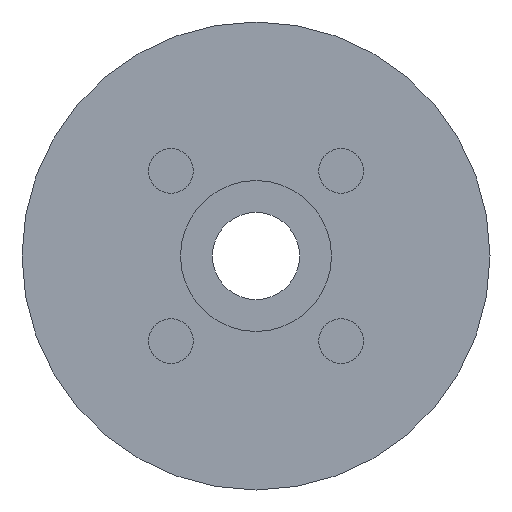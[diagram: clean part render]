
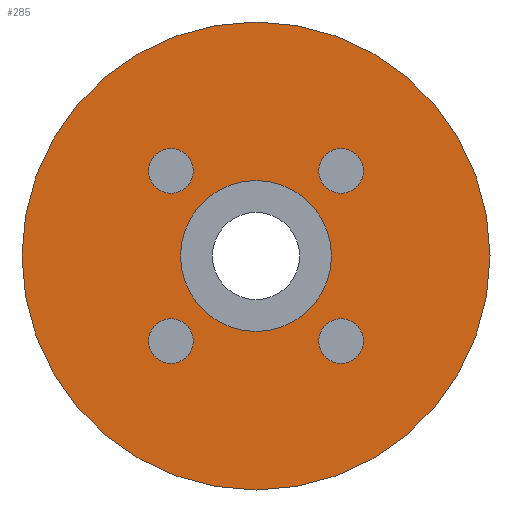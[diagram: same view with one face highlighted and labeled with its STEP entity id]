
A CAD part, front view. The second image highlights one B-rep face of the part: STEP entity #285.
In plain terms, the highlighted planar face has unit normal (0, -1, 0).
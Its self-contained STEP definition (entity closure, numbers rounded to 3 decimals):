
#126 = CYLINDRICAL_SURFACE('',#127,22.);
#127 = AXIS2_PLACEMENT_3D('',#128,#129,#130);
#128 = CARTESIAN_POINT('',(0.,0.5,0.));
#129 = DIRECTION('',(0.,1.,0.));
#130 = DIRECTION('',(0.,-0.,1.));
#181 = VERTEX_POINT('',#182);
#182 = CARTESIAN_POINT('',(0.,0.5,22.));
#203 = EDGE_CURVE('',#181,#181,#204,.T.);
#204 = SURFACE_CURVE('',#205,(#210,#217),.PCURVE_S1.);
#205 = CIRCLE('',#206,22.);
#206 = AXIS2_PLACEMENT_3D('',#207,#208,#209);
#207 = CARTESIAN_POINT('',(0.,0.5,0.));
#208 = DIRECTION('',(0.,1.,0.));
#209 = DIRECTION('',(0.,-0.,1.));
#210 = PCURVE('',#126,#211);
#211 = DEFINITIONAL_REPRESENTATION('',(#212),#216);
#212 = LINE('',#213,#214);
#213 = CARTESIAN_POINT('',(0.,0.));
#214 = VECTOR('',#215,1.);
#215 = DIRECTION('',(1.,0.));
#216 = ( GEOMETRIC_REPRESENTATION_CONTEXT(2) 
PARAMETRIC_REPRESENTATION_CONTEXT() REPRESENTATION_CONTEXT('2D SPACE',''
  ) );
#217 = PCURVE('',#218,#223);
#218 = PLANE('',#219);
#219 = AXIS2_PLACEMENT_3D('',#220,#221,#222);
#220 = CARTESIAN_POINT('',(0.,0.5,0.));
#221 = DIRECTION('',(0.,1.,0.));
#222 = DIRECTION('',(0.,-0.,1.));
#223 = DEFINITIONAL_REPRESENTATION('',(#224),#228);
#224 = CIRCLE('',#225,22.);
#225 = AXIS2_PLACEMENT_2D('',#226,#227);
#226 = CARTESIAN_POINT('',(0.,0.));
#227 = DIRECTION('',(1.,0.));
#228 = ( GEOMETRIC_REPRESENTATION_CONTEXT(2) 
PARAMETRIC_REPRESENTATION_CONTEXT() REPRESENTATION_CONTEXT('2D SPACE',''
  ) );
#285 = ADVANCED_FACE('',(#286,#289,#320,#351,#382,#413),#218,.F.);
#286 = FACE_BOUND('',#287,.F.);
#287 = EDGE_LOOP('',(#288));
#288 = ORIENTED_EDGE('',*,*,#203,.T.);
#289 = FACE_BOUND('',#290,.F.);
#290 = EDGE_LOOP('',(#291));
#291 = ORIENTED_EDGE('',*,*,#292,.F.);
#292 = EDGE_CURVE('',#293,#293,#295,.T.);
#293 = VERTEX_POINT('',#294);
#294 = CARTESIAN_POINT('',(-8.,0.5,-5.9));
#295 = SURFACE_CURVE('',#296,(#301,#308),.PCURVE_S1.);
#296 = CIRCLE('',#297,2.1);
#297 = AXIS2_PLACEMENT_3D('',#298,#299,#300);
#298 = CARTESIAN_POINT('',(-8.,0.5,-8.));
#299 = DIRECTION('',(0.,1.,0.));
#300 = DIRECTION('',(0.,-0.,1.));
#301 = PCURVE('',#218,#302);
#302 = DEFINITIONAL_REPRESENTATION('',(#303),#307);
#303 = CIRCLE('',#304,2.1);
#304 = AXIS2_PLACEMENT_2D('',#305,#306);
#305 = CARTESIAN_POINT('',(-8.,-8.));
#306 = DIRECTION('',(1.,0.));
#307 = ( GEOMETRIC_REPRESENTATION_CONTEXT(2) 
PARAMETRIC_REPRESENTATION_CONTEXT() REPRESENTATION_CONTEXT('2D SPACE',''
  ) );
#308 = PCURVE('',#309,#314);
#309 = CYLINDRICAL_SURFACE('',#310,2.1);
#310 = AXIS2_PLACEMENT_3D('',#311,#312,#313);
#311 = CARTESIAN_POINT('',(-8.,-5.,-8.));
#312 = DIRECTION('',(0.,1.,0.));
#313 = DIRECTION('',(0.,-0.,1.));
#314 = DEFINITIONAL_REPRESENTATION('',(#315),#319);
#315 = LINE('',#316,#317);
#316 = CARTESIAN_POINT('',(0.,5.5));
#317 = VECTOR('',#318,1.);
#318 = DIRECTION('',(1.,0.));
#319 = ( GEOMETRIC_REPRESENTATION_CONTEXT(2) 
PARAMETRIC_REPRESENTATION_CONTEXT() REPRESENTATION_CONTEXT('2D SPACE',''
  ) );
#320 = FACE_BOUND('',#321,.F.);
#321 = EDGE_LOOP('',(#322));
#322 = ORIENTED_EDGE('',*,*,#323,.F.);
#323 = EDGE_CURVE('',#324,#324,#326,.T.);
#324 = VERTEX_POINT('',#325);
#325 = CARTESIAN_POINT('',(-8.,0.5,10.1));
#326 = SURFACE_CURVE('',#327,(#332,#339),.PCURVE_S1.);
#327 = CIRCLE('',#328,2.1);
#328 = AXIS2_PLACEMENT_3D('',#329,#330,#331);
#329 = CARTESIAN_POINT('',(-8.,0.5,8.));
#330 = DIRECTION('',(0.,1.,0.));
#331 = DIRECTION('',(0.,-0.,1.));
#332 = PCURVE('',#218,#333);
#333 = DEFINITIONAL_REPRESENTATION('',(#334),#338);
#334 = CIRCLE('',#335,2.1);
#335 = AXIS2_PLACEMENT_2D('',#336,#337);
#336 = CARTESIAN_POINT('',(8.,-8.));
#337 = DIRECTION('',(1.,0.));
#338 = ( GEOMETRIC_REPRESENTATION_CONTEXT(2) 
PARAMETRIC_REPRESENTATION_CONTEXT() REPRESENTATION_CONTEXT('2D SPACE',''
  ) );
#339 = PCURVE('',#340,#345);
#340 = CYLINDRICAL_SURFACE('',#341,2.1);
#341 = AXIS2_PLACEMENT_3D('',#342,#343,#344);
#342 = CARTESIAN_POINT('',(-8.,-5.,8.));
#343 = DIRECTION('',(0.,1.,0.));
#344 = DIRECTION('',(0.,-0.,1.));
#345 = DEFINITIONAL_REPRESENTATION('',(#346),#350);
#346 = LINE('',#347,#348);
#347 = CARTESIAN_POINT('',(0.,5.5));
#348 = VECTOR('',#349,1.);
#349 = DIRECTION('',(1.,0.));
#350 = ( GEOMETRIC_REPRESENTATION_CONTEXT(2) 
PARAMETRIC_REPRESENTATION_CONTEXT() REPRESENTATION_CONTEXT('2D SPACE',''
  ) );
#351 = FACE_BOUND('',#352,.F.);
#352 = EDGE_LOOP('',(#353));
#353 = ORIENTED_EDGE('',*,*,#354,.F.);
#354 = EDGE_CURVE('',#355,#355,#357,.T.);
#355 = VERTEX_POINT('',#356);
#356 = CARTESIAN_POINT('',(8.,0.5,-5.9));
#357 = SURFACE_CURVE('',#358,(#363,#370),.PCURVE_S1.);
#358 = CIRCLE('',#359,2.1);
#359 = AXIS2_PLACEMENT_3D('',#360,#361,#362);
#360 = CARTESIAN_POINT('',(8.,0.5,-8.));
#361 = DIRECTION('',(0.,1.,0.));
#362 = DIRECTION('',(0.,-0.,1.));
#363 = PCURVE('',#218,#364);
#364 = DEFINITIONAL_REPRESENTATION('',(#365),#369);
#365 = CIRCLE('',#366,2.1);
#366 = AXIS2_PLACEMENT_2D('',#367,#368);
#367 = CARTESIAN_POINT('',(-8.,8.));
#368 = DIRECTION('',(1.,0.));
#369 = ( GEOMETRIC_REPRESENTATION_CONTEXT(2) 
PARAMETRIC_REPRESENTATION_CONTEXT() REPRESENTATION_CONTEXT('2D SPACE',''
  ) );
#370 = PCURVE('',#371,#376);
#371 = CYLINDRICAL_SURFACE('',#372,2.1);
#372 = AXIS2_PLACEMENT_3D('',#373,#374,#375);
#373 = CARTESIAN_POINT('',(8.,-5.,-8.));
#374 = DIRECTION('',(0.,1.,0.));
#375 = DIRECTION('',(0.,-0.,1.));
#376 = DEFINITIONAL_REPRESENTATION('',(#377),#381);
#377 = LINE('',#378,#379);
#378 = CARTESIAN_POINT('',(0.,5.5));
#379 = VECTOR('',#380,1.);
#380 = DIRECTION('',(1.,0.));
#381 = ( GEOMETRIC_REPRESENTATION_CONTEXT(2) 
PARAMETRIC_REPRESENTATION_CONTEXT() REPRESENTATION_CONTEXT('2D SPACE',''
  ) );
#382 = FACE_BOUND('',#383,.F.);
#383 = EDGE_LOOP('',(#384));
#384 = ORIENTED_EDGE('',*,*,#385,.F.);
#385 = EDGE_CURVE('',#386,#386,#388,.T.);
#386 = VERTEX_POINT('',#387);
#387 = CARTESIAN_POINT('',(0.,0.5,7.1));
#388 = SURFACE_CURVE('',#389,(#394,#401),.PCURVE_S1.);
#389 = CIRCLE('',#390,7.1);
#390 = AXIS2_PLACEMENT_3D('',#391,#392,#393);
#391 = CARTESIAN_POINT('',(0.,0.5,0.));
#392 = DIRECTION('',(0.,1.,0.));
#393 = DIRECTION('',(0.,-0.,1.));
#394 = PCURVE('',#218,#395);
#395 = DEFINITIONAL_REPRESENTATION('',(#396),#400);
#396 = CIRCLE('',#397,7.1);
#397 = AXIS2_PLACEMENT_2D('',#398,#399);
#398 = CARTESIAN_POINT('',(0.,0.));
#399 = DIRECTION('',(1.,0.));
#400 = ( GEOMETRIC_REPRESENTATION_CONTEXT(2) 
PARAMETRIC_REPRESENTATION_CONTEXT() REPRESENTATION_CONTEXT('2D SPACE',''
  ) );
#401 = PCURVE('',#402,#407);
#402 = CYLINDRICAL_SURFACE('',#403,7.1);
#403 = AXIS2_PLACEMENT_3D('',#404,#405,#406);
#404 = CARTESIAN_POINT('',(0.,-0.5,0.));
#405 = DIRECTION('',(0.,1.,0.));
#406 = DIRECTION('',(0.,-0.,1.));
#407 = DEFINITIONAL_REPRESENTATION('',(#408),#412);
#408 = LINE('',#409,#410);
#409 = CARTESIAN_POINT('',(0.,1.));
#410 = VECTOR('',#411,1.);
#411 = DIRECTION('',(1.,0.));
#412 = ( GEOMETRIC_REPRESENTATION_CONTEXT(2) 
PARAMETRIC_REPRESENTATION_CONTEXT() REPRESENTATION_CONTEXT('2D SPACE',''
  ) );
#413 = FACE_BOUND('',#414,.F.);
#414 = EDGE_LOOP('',(#415));
#415 = ORIENTED_EDGE('',*,*,#416,.F.);
#416 = EDGE_CURVE('',#417,#417,#419,.T.);
#417 = VERTEX_POINT('',#418);
#418 = CARTESIAN_POINT('',(8.,0.5,10.1));
#419 = SURFACE_CURVE('',#420,(#425,#432),.PCURVE_S1.);
#420 = CIRCLE('',#421,2.1);
#421 = AXIS2_PLACEMENT_3D('',#422,#423,#424);
#422 = CARTESIAN_POINT('',(8.,0.5,8.));
#423 = DIRECTION('',(0.,1.,0.));
#424 = DIRECTION('',(0.,-0.,1.));
#425 = PCURVE('',#218,#426);
#426 = DEFINITIONAL_REPRESENTATION('',(#427),#431);
#427 = CIRCLE('',#428,2.1);
#428 = AXIS2_PLACEMENT_2D('',#429,#430);
#429 = CARTESIAN_POINT('',(8.,8.));
#430 = DIRECTION('',(1.,0.));
#431 = ( GEOMETRIC_REPRESENTATION_CONTEXT(2) 
PARAMETRIC_REPRESENTATION_CONTEXT() REPRESENTATION_CONTEXT('2D SPACE',''
  ) );
#432 = PCURVE('',#433,#438);
#433 = CYLINDRICAL_SURFACE('',#434,2.1);
#434 = AXIS2_PLACEMENT_3D('',#435,#436,#437);
#435 = CARTESIAN_POINT('',(8.,-5.,8.));
#436 = DIRECTION('',(0.,1.,0.));
#437 = DIRECTION('',(0.,-0.,1.));
#438 = DEFINITIONAL_REPRESENTATION('',(#439),#443);
#439 = LINE('',#440,#441);
#440 = CARTESIAN_POINT('',(0.,5.5));
#441 = VECTOR('',#442,1.);
#442 = DIRECTION('',(1.,0.));
#443 = ( GEOMETRIC_REPRESENTATION_CONTEXT(2) 
PARAMETRIC_REPRESENTATION_CONTEXT() REPRESENTATION_CONTEXT('2D SPACE',''
  ) );
